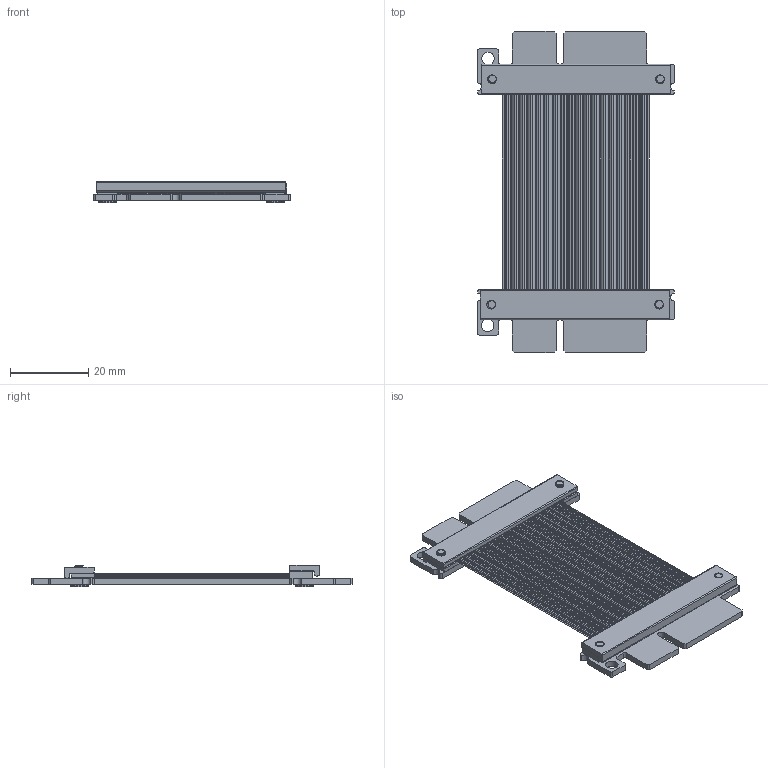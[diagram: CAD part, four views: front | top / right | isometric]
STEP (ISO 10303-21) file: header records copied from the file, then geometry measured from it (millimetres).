
FILE_DESCRIPTION(('Open CASCADE Model'),'2;1');
FILE_NAME('Open CASCADE Shape Model','2023-05-07T13:44:53',('Author'),( 'Open CASCADE'),'Open CASCADE STEP processor 7.5','Open CASCADE 7.5' ,'Unknown');
FILE_SCHEMA(('AUTOMOTIVE_DESIGN { 1 0 10303 214 1 1 1 1 }'));
Length unit declared in the file: millimetre
Products named in the file (9): PCB; Board; Open CASCADE STEP translator 7.5 1.1.1; Free-Models; 5.0 SI 20221123; M2 H=5mm 20220810_RGB1315860; R3H µ爦 20220808_RGB1315860; K2S 20221109; ·½юµ爦 H=1MM 20221126_RGB1315860
Assembly tree (16 placements, depth 3):
  PCB
    Board
      Open CASCADE STEP translator 7.5 1.1.1
    Free-Models
      5.0 SI 20221123  x3
      M2 H=5mm 20220810_RGB1315860  x4
      R3H µ爦 20220808_RGB1315860  x2
      K2S 20221109  x2
      ·½юµ爦 H=1MM 20221126_RGB1315860  x2
Bounding box: 50.3 x 82 x 5.6 mm (x, y, z)
Volume: 5022.1 mm3; surface area: 38646.9 mm2
Topology: 272 solids, 272 shells, 3878 faces, 8872 edges, 5510 vertices
Faces by surface type: cylinder 2084, plane 1190, torus 592, bspline 12
Full cylindrical faces by diameter (mm): 2.2 x8, 3.2 x2
Entity records: 41653 total; most frequent: CARTESIAN_POINT 8029, DIRECTION 7300, ORIENTED_EDGE 6138, EDGE_CURVE 3069, AXIS2_PLACEMENT_3D 2937, VERTEX_POINT 1912, CIRCLE 1592, FACE_BOUND 1473
